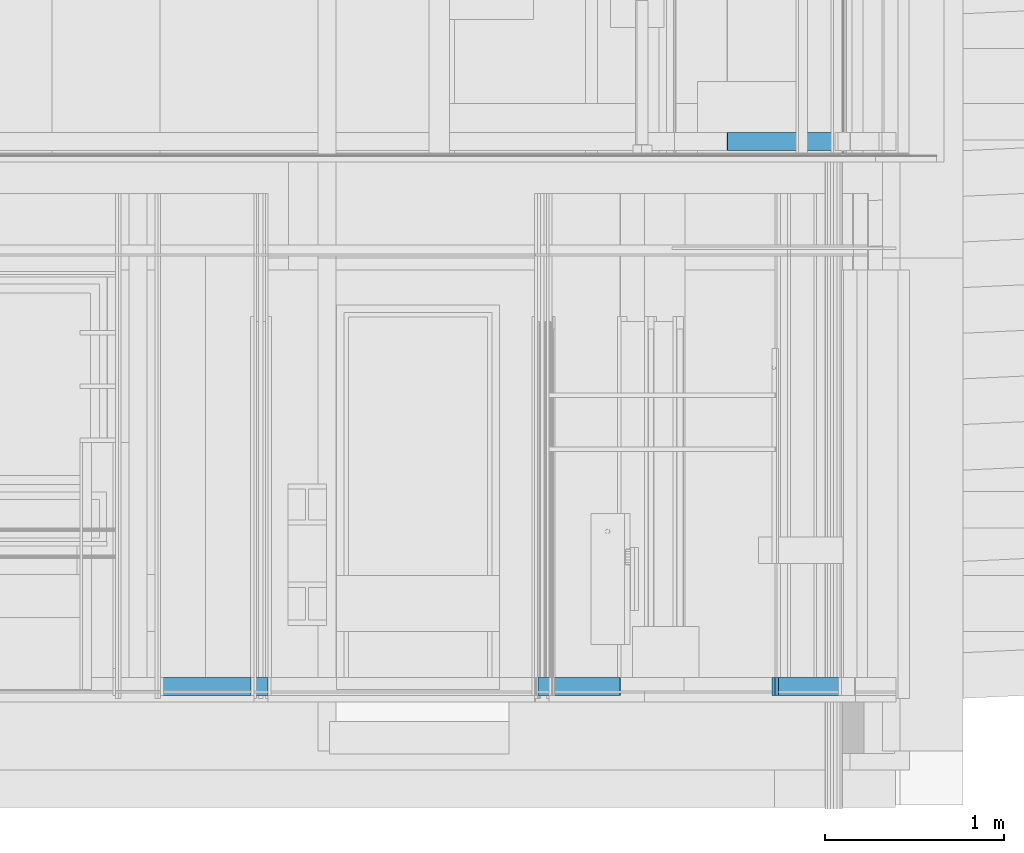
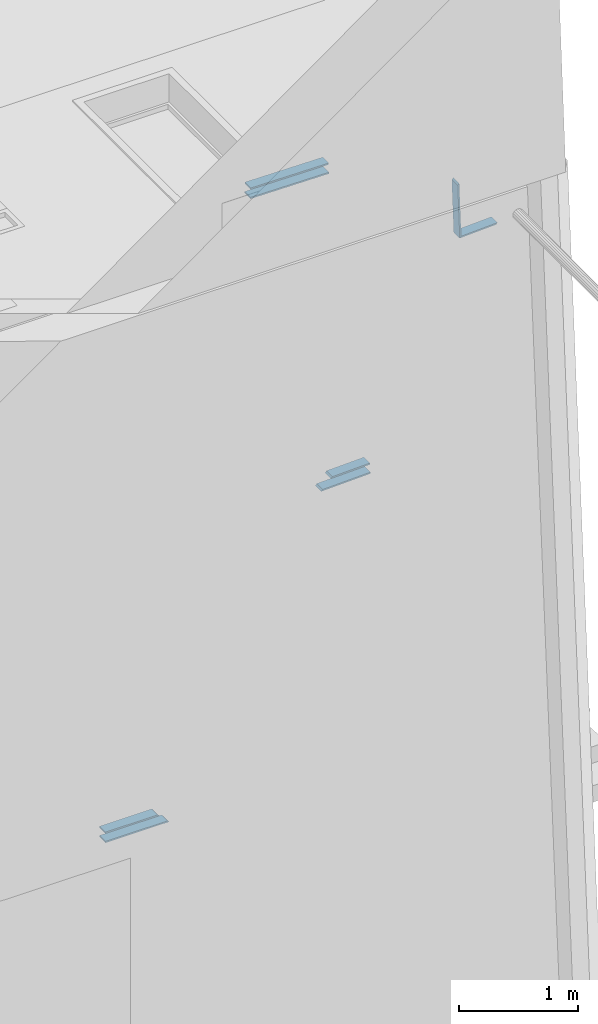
# One storey, part 237 of 583: 8 building element parts, 5 elements without a shape of their own.
"""IFC2X3 building model written with IfcOpenShell, lengths in metres."""

import ifcopenshell
import ifcopenshell.guid

model = None  # the IFC model being written
_history = None  # IfcOwnerHistory: only IFC2X3 demands one
_inside = {}  # id of a spatial element -> (the spatial element, [elements in it])
_under = {}  # id of a project, library or spatial element -> (it, [spatial elements below it])
_declared = {}  # id of a project -> (the project, [libraries it declares])
_typed = {}  # id of a type object -> (the type object, [elements of that type])
_made_of = {}  # id of a material, layer set ... -> (it, [elements and type objects made of it])


def new_model(schema):
    """Start an empty IFC model of exactly this schema.

    Asked for "IFC4X3", IfcOpenShell would pick the latest addendum, in which some entities
    have other attributes; the version numbers below select the first issue.
    IFC2X3 requires an IfcOwnerHistory on every rooted entity: one is made here for all.
    """
    global model, _history
    if schema == "IFC4X3":
        model = ifcopenshell.file(schema_version=(4, 3, 0, 0))
    else:
        model = ifcopenshell.file(schema=schema)
    _inside.clear()
    _under.clear()
    _declared.clear()
    _typed.clear()
    _made_of.clear()
    _history = None
    if model.schema == "IFC2X3":
        org = make("IfcOrganization", Name="unknown")
        user = make(
            "IfcPersonAndOrganization",
            ThePerson=make("IfcPerson", FamilyName="unknown"),
            TheOrganization=org,
        )
        app = make(
            "IfcApplication",
            ApplicationDeveloper=org,
            Version="unknown",
            ApplicationFullName="unknown",
            ApplicationIdentifier="unknown",
        )
        _history = make(
            "IfcOwnerHistory",
            OwningUser=user,
            OwningApplication=app,
            ChangeAction="ADDED",
            CreationDate=0,
        )
    return model


def make(cls, **values):
    """One entity of the class cls with the attributes given. An attribute that is None is left unset."""
    return model.create_entity(
        cls, **{name: value for name, value in values.items() if value is not None}
    )


def entity(cls, *values):
    """Any entity or typed value of the class cls, its attributes in the order of the schema. None: left unset."""
    e = model.create_entity(cls)
    for i, value in enumerate(values):
        if value is not None:
            e[i] = value
    return e


def rooted(cls, **values):
    """An entity with a GlobalId (a new one), such as an element, a storey or a relation."""
    return make(cls, GlobalId=ifcopenshell.guid.new(), OwnerHistory=_history, **values)


def si_unit(unit_type, name, prefix=None):
    """IfcSIUnit, for example si_unit("LENGTHUNIT", "METRE", prefix="MILLI")."""
    return make("IfcSIUnit", UnitType=unit_type, Prefix=prefix, Name=name)


def converted_unit(unit_type, name, factor, base, dimensions=None, offset=None):
    """IfcConversionBasedUnit, such as the inch: factor (a typed value) times the base unit."""
    return make(
        "IfcConversionBasedUnit"
        if offset is None
        else "IfcConversionBasedUnitWithOffset",
        ConversionOffset=offset,
        Dimensions=None
        if dimensions is None
        else entity("IfcDimensionalExponents", *dimensions),
        UnitType=unit_type,
        Name=name,
        ConversionFactor=make(
            "IfcMeasureWithUnit", ValueComponent=factor, UnitComponent=base
        ),
    )


def derived_unit(unit_type, elements):
    """IfcDerivedUnit: a product of units, each with its exponent."""
    return make(
        "IfcDerivedUnit",
        Elements=[
            make("IfcDerivedUnitElement", Unit=unit, Exponent=power)
            for unit, power in elements
        ],
        UnitType=unit_type,
    )


def money_unit(currency):
    """IfcMonetaryUnit."""
    return make("IfcMonetaryUnit", Currency=currency)


def assignment(units):
    """IfcUnitAssignment: the units of a project."""
    return None if units is None else make("IfcUnitAssignment", Units=units)


def point(xyz):
    """IfcCartesianPoint."""
    return None if xyz is None else make("IfcCartesianPoint", Coordinates=xyz)


def direction(xyz):
    """IfcDirection."""
    return None if xyz is None else make("IfcDirection", DirectionRatios=xyz)


def frame(location, z_axis=None, x_axis=None):
    """IfcAxis2Placement3D, a coordinate frame: its origin and axes. An axis left out is left unset."""
    return make(
        "IfcAxis2Placement3D",
        Location=point(location),
        Axis=direction(z_axis),
        RefDirection=direction(x_axis),
    )


def origin_with_axes():
    """The frame at (0, 0, 0) with the z axis (0, 0, 1) and the x axis (1, 0, 0) written out."""
    return frame((0.0, 0.0, 0.0), z_axis=(0.0, 0.0, 1.0), x_axis=(1.0, 0.0, 0.0))


def place(relative_to, where):
    """IfcLocalPlacement: puts the frame where relative to a parent placement (None: the world)."""
    return make(
        "IfcLocalPlacement", PlacementRelTo=relative_to, RelativePlacement=where
    )


def context(
    kind, dimensions, precision=None, world=None, true_north=None, identifier=None
):
    """IfcGeometricRepresentationContext, for example the 3D "Model" context."""
    return make(
        "IfcGeometricRepresentationContext",
        ContextIdentifier=identifier,
        ContextType=kind,
        CoordinateSpaceDimension=dimensions,
        Precision=precision,
        WorldCoordinateSystem=world,
        TrueNorth=true_north,
    )


def subcontext(parent, identifier, kind, view, scale=None):
    """IfcGeometricRepresentationSubContext, for example "Body" below "Model"."""
    return make(
        "IfcGeometricRepresentationSubContext",
        ContextIdentifier=identifier,
        ContextType=kind,
        ParentContext=parent,
        TargetScale=scale,
        TargetView=view,
    )


def project(units=None, contexts=None):
    """IfcProject with its units and contexts."""
    return rooted(
        "IfcProject",
        Name="project",
        RepresentationContexts=contexts,
        UnitsInContext=assignment(units),
    )


def spatial(cls, under=None, at=None, **own):
    """A site, building, storey or space (cls), placed at a placement, below another one or the project."""
    s = rooted(cls, ObjectPlacement=at, **own)
    if under is not None:
        _under.setdefault(under.id(), (under, []))[1].append(s)
    return s


def polyline(points):
    """IfcPolyline through the points."""
    return make("IfcPolyline", Points=[point(p) for p in points])


def outline(outer, holes=None, kind="AREA"):
    """IfcArbitraryClosedProfileDef: a profile drawn as a closed curve; with holes, ...WithVoids."""
    if holes is None:
        return make("IfcArbitraryClosedProfileDef", ProfileType=kind, OuterCurve=outer)
    return make(
        "IfcArbitraryProfileDefWithVoids",
        ProfileType=kind,
        OuterCurve=outer,
        InnerCurves=holes,
    )


def extrude(swept, where, along, depth):
    """IfcExtrudedAreaSolid: the profile swept, set in the frame where, extruded along a direction by depth."""
    return make(
        "IfcExtrudedAreaSolid",
        SweptArea=swept,
        Position=where,
        ExtrudedDirection=direction(along),
        Depth=depth,
    )


def shape(context_of_items, identifier, shape_type, items):
    """IfcShapeRepresentation: the items that make up one representation, for example the "Body"."""
    return make(
        "IfcShapeRepresentation",
        ContextOfItems=context_of_items,
        RepresentationIdentifier=identifier,
        RepresentationType=shape_type,
        Items=items,
    )


def material(Name=None, Category=None):
    """IfcMaterial."""
    return make("IfcMaterial", Name=Name, Category=Category)


def made_of(thing, what):
    """Note that an element or type object is made of a material, layer set ...; save() writes the relation."""
    if what is not None:
        _made_of.setdefault(what.id(), (what, []))[1].append(thing)
    return thing


def type_object(cls, material=None, **own):
    """A type object (cls), such as IfcWallType, which elements share."""
    return made_of(rooted(cls, **own), material)


def element(
    cls,
    number,
    at=None,
    inside=None,
    cuts=None,
    type_object=None,
    material=None,
    context=None,
    identifier="Body",
    shape_type=None,
    held_by="IfcProductDefinitionShape",
    body=None,
    shapes=None,
    **own,
):
    """One element of the class cls, such as IfcWall. Its Tag is "e" and its number.

    at: its placement. inside: the storey or other place that contains it. cuts: it is an
    opening in that element (IfcRelVoidsElement). A single representation is given by context,
    identifier, shape_type and body (its items); several are given by shapes. held_by: the class
    of the entity that holds the representations. save() writes the other relations.
    """
    e = rooted(cls, Tag="e%d" % number, ObjectPlacement=at, **own)
    if body is not None:
        shapes = [shape(context, identifier, shape_type, body)]
    if shapes is not None:
        e.Representation = make(held_by, Representations=shapes)
    if inside is not None:
        _inside.setdefault(inside.id(), (inside, []))[1].append(e)
    if cuts is not None:
        rooted(
            "IfcRelVoidsElement", RelatingBuildingElement=cuts, RelatedOpeningElement=e
        )
    if type_object is not None:
        _typed.setdefault(type_object.id(), (type_object, []))[1].append(e)
    return made_of(e, material)


def aggregate(whole, parts):
    """IfcRelAggregates: a whole, such as a stair, and the parts it consists of."""
    return rooted("IfcRelAggregates", RelatingObject=whole, RelatedObjects=parts)


def save(model, path):
    """Write the relations noted so far, then the file.

    IfcRelAggregates (storeys below a building ...), IfcRelContainedInSpatialStructure (elements
    in a storey), IfcRelDefinesByType, IfcRelAssociatesMaterial and IfcRelDeclares: one each for
    every whole, place, type object, material and project.
    """
    for whole, parts in _under.values():
        aggregate(whole, parts)
    for where, things in _inside.values():
        rooted(
            "IfcRelContainedInSpatialStructure",
            RelatedElements=things,
            RelatingStructure=where,
        )
    for kind, things in _typed.values():
        rooted("IfcRelDefinesByType", RelatedObjects=things, RelatingType=kind)
    for what, things in _made_of.values():
        rooted("IfcRelAssociatesMaterial", RelatedObjects=things, RelatingMaterial=what)
    for by, libraries in _declared.values():
        rooted("IfcRelDeclares", RelatingContext=by, RelatedDefinitions=libraries)
    model.write(path)


model = new_model("IFC2X3")

# Units and contexts
model_context = context("Model", 3, precision=1e-05, world=origin_with_axes(), true_north=direction((0.0, 1.0)))
body_context = subcontext(model_context, "Body", "Model", "MODEL_VIEW", scale=1.0)
ifc_project = project(units=[si_unit("LENGTHUNIT", "METRE"), si_unit("AREAUNIT", "SQUARE_METRE"), si_unit("VOLUMEUNIT", "CUBIC_METRE"), si_unit("ABSORBEDDOSEUNIT", "GRAY"), si_unit("AMOUNTOFSUBSTANCEUNIT", "MOLE"), si_unit("DOSEEQUIVALENTUNIT", "SIEVERT"), si_unit("ELECTRICCAPACITANCEUNIT", "FARAD"), si_unit("ELECTRICCHARGEUNIT", "COULOMB"), si_unit("ELECTRICCONDUCTANCEUNIT", "SIEMENS"), si_unit("ELECTRICCURRENTUNIT", "AMPERE"), si_unit("ELECTRICRESISTANCEUNIT", "OHM"), si_unit("ELECTRICVOLTAGEUNIT", "VOLT"), si_unit("ENERGYUNIT", "JOULE"), si_unit("FORCEUNIT", "NEWTON"), si_unit("FREQUENCYUNIT", "HERTZ"), si_unit("ILLUMINANCEUNIT", "LUX"), si_unit("INDUCTANCEUNIT", "HENRY"), si_unit("LUMINOUSFLUXUNIT", "LUMEN"), si_unit("LUMINOUSINTENSITYUNIT", "CANDELA"), si_unit("MAGNETICFLUXDENSITYUNIT", "TESLA"), si_unit("MAGNETICFLUXUNIT", "WEBER"), si_unit("MASSUNIT", "GRAM"), converted_unit("PLANEANGLEUNIT", "degree", entity("IfcReal", 0.0174532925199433), si_unit("PLANEANGLEUNIT", "RADIAN"), dimensions=[0, 0, 0, 0, 0, 0, 0]), si_unit("POWERUNIT", "WATT"), si_unit("PRESSUREUNIT", "PASCAL"), si_unit("RADIOACTIVITYUNIT", "BECQUEREL"), si_unit("SOLIDANGLEUNIT", "STERADIAN"), si_unit("THERMODYNAMICTEMPERATUREUNIT", "KELVIN"), si_unit("TIMEUNIT", "SECOND"), derived_unit("ACCELERATIONUNIT", [(si_unit("LENGTHUNIT", "METRE"), 1), (si_unit("TIMEUNIT", "SECOND"), -2)]), derived_unit("ANGULARVELOCITYUNIT", [(converted_unit("PLANEANGLEUNIT", "degree", entity("IfcReal", 0.0174532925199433), si_unit("PLANEANGLEUNIT", "RADIAN"), dimensions=[0, 0, 0, 0, 0, 0, 0]), 1), (si_unit("TIMEUNIT", "SECOND"), -1)]), derived_unit("CURVATUREUNIT", [(converted_unit("PLANEANGLEUNIT", "degree", entity("IfcReal", 0.0174532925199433), si_unit("PLANEANGLEUNIT", "RADIAN"), dimensions=[0, 0, 0, 0, 0, 0, 0]), 1), (si_unit("LENGTHUNIT", "METRE"), -1)]), derived_unit("DYNAMICVISCOSITYUNIT", [(si_unit("PRESSUREUNIT", "PASCAL"), 1), (si_unit("TIMEUNIT", "SECOND"), 1)]), derived_unit("HEATFLUXDENSITYUNIT", [(si_unit("POWERUNIT", "WATT"), 1), (si_unit("LENGTHUNIT", "METRE"), -2)]), derived_unit("HEATINGVALUEUNIT", [(si_unit("ENERGYUNIT", "JOULE"), 1), (si_unit("MASSUNIT", "GRAM"), -1)]), derived_unit("INTEGERCOUNTRATEUNIT", [(si_unit("TIMEUNIT", "SECOND"), -1)]), derived_unit("IONCONCENTRATIONUNIT", [(si_unit("MASSUNIT", "GRAM"), 1), (si_unit("VOLUMEUNIT", "CUBIC_METRE"), -1)]), derived_unit("ISOTHERMALMOISTURECAPACITYUNIT", [(si_unit("VOLUMEUNIT", "CUBIC_METRE"), 1), (si_unit("MASSUNIT", "GRAM"), -1)]), derived_unit("KINEMATICVISCOSITYUNIT", [(si_unit("AREAUNIT", "SQUARE_METRE"), 1), (si_unit("TIMEUNIT", "SECOND"), -1)]), derived_unit("LINEARFORCEUNIT", [(si_unit("FORCEUNIT", "NEWTON"), 1), (si_unit("LENGTHUNIT", "METRE"), -1)]), derived_unit("LINEARMOMENTUNIT", [(si_unit("FORCEUNIT", "NEWTON"), 1), (si_unit("LENGTHUNIT", "METRE"), -1)]), derived_unit("LINEARSTIFFNESSUNIT", [(si_unit("FORCEUNIT", "NEWTON"), 1), (si_unit("LENGTHUNIT", "METRE"), -1)]), derived_unit("LINEARVELOCITYUNIT", [(si_unit("LENGTHUNIT", "METRE"), 1), (si_unit("TIMEUNIT", "SECOND"), -1)]), derived_unit("LUMINOUSINTENSITYDISTRIBUTIONUNIT", [(si_unit("LUMINOUSINTENSITYUNIT", "CANDELA"), 1), (si_unit("LUMINOUSFLUXUNIT", "LUMEN"), -1)]), derived_unit("MASSDENSITYUNIT", [(si_unit("MASSUNIT", "GRAM"), 1), (si_unit("VOLUMEUNIT", "CUBIC_METRE"), -1)]), derived_unit("MASSFLOWRATEUNIT", [(si_unit("MASSUNIT", "GRAM"), 1), (si_unit("TIMEUNIT", "SECOND"), -1)]), derived_unit("MASSPERLENGTHUNIT", [(si_unit("MASSUNIT", "GRAM"), 1), (si_unit("LENGTHUNIT", "METRE"), -1)]), derived_unit("MODULUSOFELASTICITYUNIT", [(si_unit("FORCEUNIT", "NEWTON"), 1), (si_unit("AREAUNIT", "SQUARE_METRE"), -1)]), derived_unit("MODULUSOFLINEARSUBGRADEREACTIONUNIT", [(si_unit("FORCEUNIT", "NEWTON"), 1), (si_unit("LENGTHUNIT", "METRE"), -2)]), derived_unit("MODULUSOFROTATIONALSUBGRADEREACTIONUNIT", [(si_unit("FORCEUNIT", "NEWTON"), 1), (si_unit("LENGTHUNIT", "METRE"), 1)]), derived_unit("MODULUSOFSUBGRADEREACTIONUNIT", [(si_unit("FORCEUNIT", "NEWTON"), 1), (si_unit("VOLUMEUNIT", "CUBIC_METRE"), -1)]), derived_unit("MOISTUREDIFFUSIVITYUNIT", [(si_unit("VOLUMEUNIT", "CUBIC_METRE"), 1), (si_unit("TIMEUNIT", "SECOND"), -1)]), derived_unit("MOLECULARWEIGHTUNIT", [(si_unit("MASSUNIT", "GRAM"), 1), (si_unit("AMOUNTOFSUBSTANCEUNIT", "MOLE"), -1)]), derived_unit("PLANARFORCEUNIT", [(si_unit("FORCEUNIT", "NEWTON"), 1), (si_unit("LENGTHUNIT", "METRE"), -2)]), derived_unit("ROTATIONALFREQUENCYUNIT", [(si_unit("TIMEUNIT", "SECOND"), -1)]), derived_unit("ROTATIONALMASSUNIT", [(si_unit("MASSUNIT", "GRAM"), 1), (si_unit("LENGTHUNIT", "METRE"), 2)]), derived_unit("ROTATIONALSTIFFNESSUNIT", [(si_unit("FORCEUNIT", "NEWTON"), 1), (si_unit("LENGTHUNIT", "METRE"), 1), (converted_unit("PLANEANGLEUNIT", "degree", entity("IfcReal", 0.0174532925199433), si_unit("PLANEANGLEUNIT", "RADIAN"), dimensions=[0, 0, 0, 0, 0, 0, 0]), -1)]), derived_unit("SECTIONAREAINTEGRALUNIT", [(si_unit("LENGTHUNIT", "METRE"), 5)]), derived_unit("SECTIONMODULUSUNIT", [(si_unit("LENGTHUNIT", "METRE"), 3)]), derived_unit("SHEARMODULUSUNIT", [(si_unit("FORCEUNIT", "NEWTON"), 1), (si_unit("AREAUNIT", "SQUARE_METRE"), -1)]), derived_unit("SOUNDPOWERUNIT", [(si_unit("ENERGYUNIT", "JOULE"), 1), (si_unit("TIMEUNIT", "SECOND"), -1)]), derived_unit("SPECIFICHEATCAPACITYUNIT", [(si_unit("FORCEUNIT", "NEWTON"), 1), (si_unit("MASSUNIT", "GRAM"), -1), (si_unit("THERMODYNAMICTEMPERATUREUNIT", "KELVIN"), -1)]), derived_unit("TEMPERATUREGRADIENTUNIT", [(si_unit("THERMODYNAMICTEMPERATUREUNIT", "KELVIN"), 1), (si_unit("LENGTHUNIT", "METRE"), -1)]), derived_unit("THERMALADMITTANCEUNIT", [(si_unit("POWERUNIT", "WATT"), 1), (si_unit("AREAUNIT", "SQUARE_METRE"), -1), (si_unit("THERMODYNAMICTEMPERATUREUNIT", "KELVIN"), -1)]), derived_unit("THERMALCONDUCTANCEUNIT", [(si_unit("POWERUNIT", "WATT"), 1), (si_unit("LENGTHUNIT", "METRE"), -1), (si_unit("THERMODYNAMICTEMPERATUREUNIT", "KELVIN"), -1)]), derived_unit("THERMALEXPANSIONCOEFFICIENTUNIT", [(si_unit("THERMODYNAMICTEMPERATUREUNIT", "KELVIN"), -1)]), derived_unit("THERMALRESISTANCEUNIT", [(si_unit("AREAUNIT", "SQUARE_METRE"), 1), (si_unit("POWERUNIT", "WATT"), -1)]), derived_unit("THERMALTRANSMITTANCEUNIT", [(si_unit("POWERUNIT", "WATT"), 1), (si_unit("AREAUNIT", "SQUARE_METRE"), -1), (si_unit("THERMODYNAMICTEMPERATUREUNIT", "KELVIN"), -1)]), derived_unit("TORQUEUNIT", [(si_unit("FORCEUNIT", "NEWTON"), 1), (si_unit("LENGTHUNIT", "METRE"), 1)]), derived_unit("VAPORPERMEABILITYUNIT", [(si_unit("MASSUNIT", "GRAM"), 1), (si_unit("TIMEUNIT", "SECOND"), -1)]), derived_unit("VOLUMETRICFLOWRATEUNIT", [(si_unit("VOLUMEUNIT", "CUBIC_METRE"), 1), (si_unit("TIMEUNIT", "SECOND"), -1)]), derived_unit("WARPINGCONSTANTUNIT", [(si_unit("LENGTHUNIT", "METRE"), 6)]), derived_unit("WARPINGMOMENTUNIT", [(si_unit("FORCEUNIT", "NEWTON"), 1), (si_unit("LENGTHUNIT", "METRE"), 2)]), money_unit("GBP")], contexts=[model_context])

# Site, building, storey
site_placement = place(None, origin_with_axes())
site = spatial("IfcSite", under=ifc_project, at=site_placement, Name="Site", CompositionType="ELEMENT")
building_placement = place(site_placement, origin_with_axes())
building = spatial("IfcBuilding", under=site, at=building_placement, Name="Building01", CompositionType="ELEMENT")
storey_placement = place(building_placement, frame((0.0, 0.0, 20.78), z_axis=(0.0, 0.0, 1.0), x_axis=(1.0, 0.0, 0.0)))
storey = spatial("IfcBuildingStorey", under=building, at=storey_placement, Name="RL", CompositionType="ELEMENT", Elevation=20.78)

# Wall, building element parts
wall_type_1 = type_object("IfcWallType", Name="SHE_A-Walls_Type05b_Partition_80mm", PredefinedType="NOTDEFINED")
wall_1_placement = place(storey_placement, frame((17.143647, 0.148, -17.176475), z_axis=(0.0, 1.0, 0.0), x_axis=(1.0, 0.0, 0.0)))
wall_1 = element("IfcWall", 1, at=wall_1_placement, inside=storey, type_object=wall_type_1, Name="5B", ObjectType="SHE_A-Walls_Type05b_Partition_80mm")
ifc_material = material(Name="A_BSUK_Walls_Timber")
placement_1 = place(wall_1_placement, origin_with_axes())
building_element_part_1 = element("IfcBuildingElementPart", 2, at=placement_1, material=ifc_material, Name="2", context=body_context, shape_type="SweptSolid", body=[
    extrude(outline(polyline([(0.614924, 0.068), (0.0, 0.068), (0.0, 0.053), (0.599924, 0.053), (0.614924, 0.068)])), frame((0.0, 0.0, 0.015), z_axis=(0.0, 0.0, 1.0), x_axis=(1.0, 0.0, 0.0)), (0.0, 0.0, 1.0), 0.1),
])
building_element_part_2 = element("IfcBuildingElementPart", 3, at=placement_1, material=ifc_material, Name="5", context=body_context, shape_type="SweptSolid", body=[
    extrude(outline(polyline([(0.519924, -0.027), (0.0, -0.027), (0.0, -0.042), (0.504924, -0.042), (0.519924, -0.027)])), frame((0.0, 0.0, 0.015), z_axis=(0.0, 0.0, 1.0), x_axis=(1.0, 0.0, 0.0)), (0.0, 0.0, 1.0), 0.1),
])
aggregate(wall_1, [building_element_part_1, building_element_part_2])

wall_2_placement = place(storey_placement, frame((19.273593, 0.148, -14.311221), z_axis=(0.0, 1.0, 0.0), x_axis=(0.99943358, 0.0, 0.03365301)))
wall_2 = element("IfcWall", 4, at=wall_2_placement, inside=storey, type_object=wall_type_1, Name="5B", ObjectType="SHE_A-Walls_Type05b_Partition_80mm")
placement_2 = place(wall_2_placement, origin_with_axes())
building_element_part_3 = element("IfcBuildingElementPart", 5, at=placement_2, material=ifc_material, Name="2", context=body_context, shape_type="SweptSolid", body=[
    extrude(outline(polyline([(0.430716, 0.068), (-0.044849, 0.068), (-0.029439, 0.053), (0.430666, 0.053), (0.430716, 0.068)])), frame((0.0, 0.0, 0.015), z_axis=(0.0, 0.0, 1.0), x_axis=(1.0, 0.0, 0.0)), (0.0, 0.0, 1.0), 0.1),
])
building_element_part_4 = element("IfcBuildingElementPart", 6, at=placement_2, material=ifc_material, Name="5", context=body_context, shape_type="SweptSolid", body=[
    extrude(outline(polyline([(0.430401, -0.027), (0.052747, -0.027), (0.067359, -0.042), (0.430351, -0.042), (0.430401, -0.027)])), frame((0.0, 0.0, 0.015), z_axis=(0.0, 0.0, 1.0), x_axis=(1.0, 0.0, 0.0)), (0.0, 0.0, 1.0), 0.1),
])
aggregate(wall_2, [building_element_part_3, building_element_part_4])

# Wall, building element part
wall_type_2 = type_object("IfcWallType", Name="SHE_A-Walls_Type06c_ExternalWallInsulation_60mm", PredefinedType="NOTDEFINED")
wall_3_placement = place(storey_placement, frame((20.635466, 0.148, -11.625735), z_axis=(0.0, 1.0, 0.0), x_axis=(0.03521735, 0.0, -0.99937968)))
wall_3 = element("IfcWall", 7, at=wall_3_placement, inside=storey, type_object=wall_type_2, Name="6C", ObjectType="SHE_A-Walls_Type06c_ExternalWallInsulation_60mm")
building_element_part_5_placement = place(wall_3_placement, origin_with_axes())
building_element_part_5 = element("IfcBuildingElementPart", 8, at=building_element_part_5_placement, material=ifc_material, Name="2", context=body_context, shape_type="SweptSolid", body=[
    extrude(outline(polyline([(0.630677, 0.087), (0.083988, 0.087), (0.069507, 0.072), (0.615512, 0.072), (0.630677, 0.087)])), frame((0.0, 0.0, 0.015), z_axis=(0.0, 0.0, 1.0), x_axis=(1.0, 0.0, 0.0)), (0.0, 0.0, 1.0), 0.1),
])
aggregate(wall_3, [building_element_part_5])

wall_4_placement = place(storey_placement, frame((20.65458, 0.148, -12.168117), z_axis=(0.0, 1.0, 0.0), x_axis=(0.99893377, 0.0, 0.04616624)))
wall_4 = element("IfcWall", 9, at=wall_4_placement, inside=storey, type_object=wall_type_2, Name="6C", ObjectType="SHE_A-Walls_Type06c_ExternalWallInsulation_60mm")
building_element_part_6_placement = place(wall_4_placement, origin_with_axes())
building_element_part_6 = element("IfcBuildingElementPart", 10, at=building_element_part_6_placement, material=ifc_material, Name="2", context=body_context, shape_type="SweptSolid", body=[
    extrude(outline(polyline([(0.26346, 0.087), (-0.087959, 0.087), (-0.072793, 0.072), (0.278597, 0.072), (0.26346, 0.087)])), frame((0.0, 0.0, 0.015), z_axis=(0.0, 0.0, 1.0), x_axis=(1.0, 0.0, 0.0)), (0.0, 0.0, 1.0), 0.1),
])
aggregate(wall_4, [building_element_part_6])

# Wall, building element parts
wall_5_placement = place(storey_placement, frame((20.301424, 3.185, -13.53525), z_axis=(0.0, 1.0, 0.0), x_axis=(0.99993953, 0.0, -0.01099744)))
wall_5 = element("IfcWall", 11, at=wall_5_placement, inside=storey, type_object=wall_type_1, Name="5B", ObjectType="SHE_A-Walls_Type05b_Partition_80mm")
placement_3 = place(wall_5_placement, origin_with_axes())
building_element_part_7 = element("IfcBuildingElementPart", 12, at=placement_3, material=ifc_material, Name="2", context=body_context, shape_type="SweptSolid", body=[
    extrude(outline(polyline([(0.758982, 0.068), (0.0, 0.068), (0.0, 0.053), (0.75826, 0.053), (0.758982, 0.068)])), frame((0.0, 0.0, 0.015), z_axis=(0.0, 0.0, 1.0), x_axis=(1.0, 0.0, 0.0)), (0.0, 0.0, 1.0), 0.1),
])
building_element_part_8 = element("IfcBuildingElementPart", 13, at=placement_3, material=ifc_material, Name="5", context=body_context, shape_type="SweptSolid", body=[
    extrude(outline(polyline([(0.754411, -0.027), (0.0, -0.027), (0.0, -0.042), (0.753689, -0.042), (0.754411, -0.027)])), frame((0.0, 0.0, 0.015), z_axis=(0.0, 0.0, 1.0), x_axis=(1.0, 0.0, 0.0)), (0.0, 0.0, 1.0), 0.1),
])
aggregate(wall_5, [building_element_part_7, building_element_part_8])

save(model, "model.ifc")
